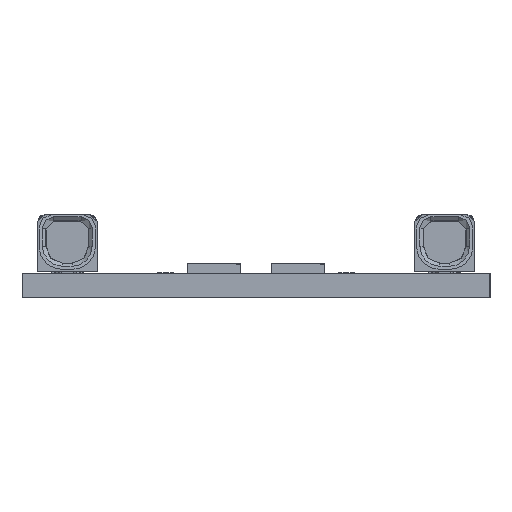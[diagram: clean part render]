
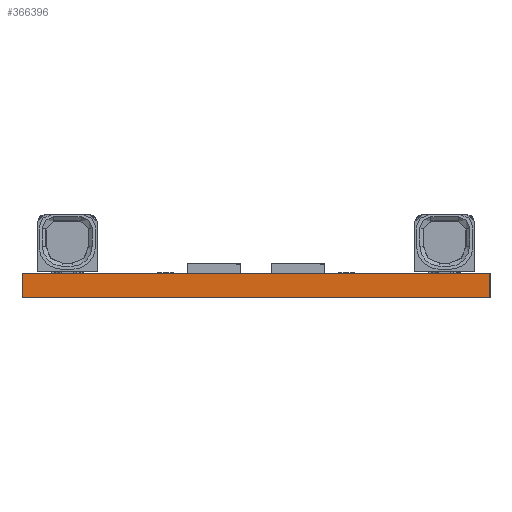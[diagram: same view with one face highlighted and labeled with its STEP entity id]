
A CAD part, left-side view. The second image highlights one B-rep face of the part: STEP entity #366396.
In plain terms, the highlighted planar face has unit normal (-1, 0, 0).
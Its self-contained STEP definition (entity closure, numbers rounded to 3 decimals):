
#20641 = DIRECTION ( 'NONE',  ( 0., -1., 0. ) ) ;
#27915 = ORIENTED_EDGE ( 'NONE', *, *, #242403, .T. ) ;
#55723 = CARTESIAN_POINT ( 'NONE',  ( -560., 15.5, 0. ) ) ;
#56366 = LINE ( 'NONE', #459222, #445795 ) ;
#73651 = VERTEX_POINT ( 'NONE', #303504 ) ;
#96758 = CARTESIAN_POINT ( 'NONE',  ( -560., -15.5, 1.6 ) ) ;
#105054 = EDGE_CURVE ( 'NONE', #233942, #73651, #56366, .T. ) ;
#106966 = ORIENTED_EDGE ( 'NONE', *, *, #570455, .T. ) ;
#137276 = AXIS2_PLACEMENT_3D ( 'NONE', #96758, #175638, #496521 ) ;
#137568 = FACE_OUTER_BOUND ( 'NONE', #306040, .T. ) ;
#140983 = VECTOR ( 'NONE', #510118, 1000. ) ;
#175638 = DIRECTION ( 'NONE',  ( 1., 0., 0. ) ) ;
#209781 = CARTESIAN_POINT ( 'NONE',  ( -560., -15.5, 1.6 ) ) ;
#233942 = VERTEX_POINT ( 'NONE', #416630 ) ;
#242403 = EDGE_CURVE ( 'NONE', #233942, #457965, #466415, .T. ) ;
#242592 = LINE ( 'NONE', #420664, #344142 ) ;
#291351 = DIRECTION ( 'NONE',  ( 0., 0., -1. ) ) ;
#293884 = CARTESIAN_POINT ( 'NONE',  ( -560., 15.5, 1.6 ) ) ;
#297132 = LINE ( 'NONE', #209781, #479709 ) ;
#299697 = ORIENTED_EDGE ( 'NONE', *, *, #105054, .F. ) ;
#303504 = CARTESIAN_POINT ( 'NONE',  ( -560., -15.5, 1.6 ) ) ;
#306040 = EDGE_LOOP ( 'NONE', ( #106966, #397224, #299697, #27915 ) ) ;
#323144 = CARTESIAN_POINT ( 'NONE',  ( -560., -15.5, 0. ) ) ;
#344142 = VECTOR ( 'NONE', #20641, 1000. ) ;
#366396 = ADVANCED_FACE ( 'NONE', ( #137568 ), #408977, .F. ) ;
#382812 = EDGE_CURVE ( 'NONE', #73651, #440306, #297132, .T. ) ;
#397224 = ORIENTED_EDGE ( 'NONE', *, *, #382812, .F. ) ;
#408977 = PLANE ( 'NONE',  #137276 ) ;
#416630 = CARTESIAN_POINT ( 'NONE',  ( -560., 15.5, 1.6 ) ) ;
#420664 = CARTESIAN_POINT ( 'NONE',  ( -560., -15.5, 0. ) ) ;
#440306 = VERTEX_POINT ( 'NONE', #323144 ) ;
#445795 = VECTOR ( 'NONE', #555455, 1000. ) ;
#457965 = VERTEX_POINT ( 'NONE', #55723 ) ;
#459222 = CARTESIAN_POINT ( 'NONE',  ( -560., -15.5, 1.6 ) ) ;
#466415 = LINE ( 'NONE', #293884, #140983 ) ;
#479709 = VECTOR ( 'NONE', #291351, 1000. ) ;
#496521 = DIRECTION ( 'NONE',  ( 0., 0., -1. ) ) ;
#510118 = DIRECTION ( 'NONE',  ( 0., 0., -1. ) ) ;
#555455 = DIRECTION ( 'NONE',  ( 0., -1., 0. ) ) ;
#570455 = EDGE_CURVE ( 'NONE', #457965, #440306, #242592, .T. ) ;
